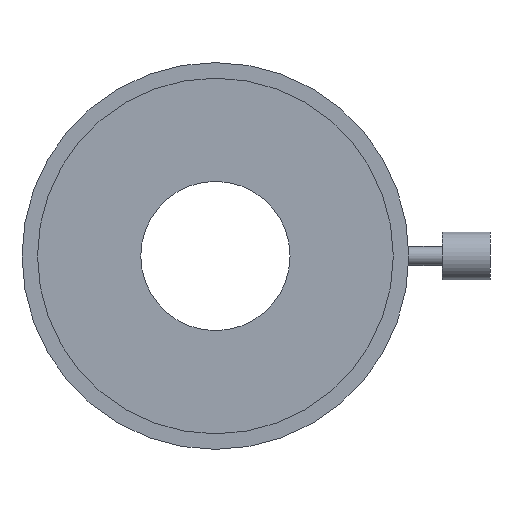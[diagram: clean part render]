
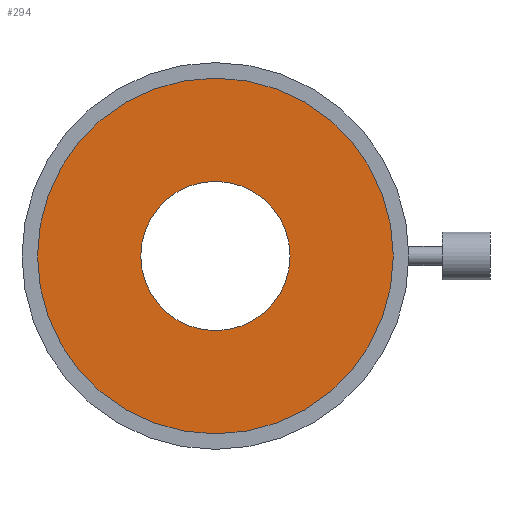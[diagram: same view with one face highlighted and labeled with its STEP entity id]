
A CAD part, front view. The second image highlights one B-rep face of the part: STEP entity #294.
In plain terms, the highlighted planar face has unit normal (0, -1, 0).
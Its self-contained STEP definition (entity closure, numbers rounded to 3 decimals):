
#45 = DIRECTION ( 'NONE',  ( 1., 0., 0. ) ) ;
#57 = CARTESIAN_POINT ( 'NONE',  ( 14.9, 5.6, 0. ) ) ;
#136 = DIRECTION ( 'NONE',  ( 0., -1., 0. ) ) ;
#161 = VERTEX_POINT ( 'NONE', #1045 ) ;
#199 = DIRECTION ( 'NONE',  ( 0., -1., 0. ) ) ;
#213 = CARTESIAN_POINT ( 'NONE',  ( 0., 5.6, 0. ) ) ;
#226 = DIRECTION ( 'NONE',  ( 1., 0., 0. ) ) ;
#235 = AXIS2_PLACEMENT_3D ( 'NONE', #938, #677, #429 ) ;
#244 = ORIENTED_EDGE ( 'NONE', *, *, #853, .T. ) ;
#287 = PLANE ( 'NONE',  #412 ) ;
#289 = EDGE_CURVE ( 'NONE', #538, #886, #316, .T. ) ;
#294 = ADVANCED_FACE ( 'NONE', ( #337, #338 ), #287, .T. ) ;
#316 = CIRCLE ( 'NONE', #428, 6.25 ) ;
#337 = FACE_OUTER_BOUND ( 'NONE', #926, .T. ) ;
#338 = FACE_BOUND ( 'NONE', #536, .T. ) ;
#366 = AXIS2_PLACEMENT_3D ( 'NONE', #837, #426, #680 ) ;
#377 = DIRECTION ( 'NONE',  ( 1., 0., 0. ) ) ;
#403 = CARTESIAN_POINT ( 'NONE',  ( 0., 5.6, 0. ) ) ;
#412 = AXIS2_PLACEMENT_3D ( 'NONE', #887, #199, #377 ) ;
#426 = DIRECTION ( 'NONE',  ( 0., -1., 0. ) ) ;
#428 = AXIS2_PLACEMENT_3D ( 'NONE', #213, #1060, #45 ) ;
#429 = DIRECTION ( 'NONE',  ( 1., 0., 0. ) ) ;
#473 = CIRCLE ( 'NONE', #1099, 6.25 ) ;
#478 = ORIENTED_EDGE ( 'NONE', *, *, #739, .F. ) ;
#536 = EDGE_LOOP ( 'NONE', ( #478, #866 ) ) ;
#538 = VERTEX_POINT ( 'NONE', #626 ) ;
#547 = CIRCLE ( 'NONE', #235, 14.9 ) ;
#626 = CARTESIAN_POINT ( 'NONE',  ( -6.25, 5.6, 0. ) ) ;
#669 = CARTESIAN_POINT ( 'NONE',  ( 6.25, 5.6, 0. ) ) ;
#677 = DIRECTION ( 'NONE',  ( 0., -1., 0. ) ) ;
#680 = DIRECTION ( 'NONE',  ( 1., 0., 0. ) ) ;
#720 = CIRCLE ( 'NONE', #366, 14.9 ) ;
#739 = EDGE_CURVE ( 'NONE', #886, #538, #473, .T. ) ;
#837 = CARTESIAN_POINT ( 'NONE',  ( 0., 5.6, 0. ) ) ;
#853 = EDGE_CURVE ( 'NONE', #161, #855, #720, .T. ) ;
#855 = VERTEX_POINT ( 'NONE', #57 ) ;
#866 = ORIENTED_EDGE ( 'NONE', *, *, #289, .F. ) ;
#886 = VERTEX_POINT ( 'NONE', #669 ) ;
#887 = CARTESIAN_POINT ( 'NONE',  ( 6.25, 5.6, 0. ) ) ;
#906 = EDGE_CURVE ( 'NONE', #855, #161, #547, .T. ) ;
#926 = EDGE_LOOP ( 'NONE', ( #999, #244 ) ) ;
#938 = CARTESIAN_POINT ( 'NONE',  ( 0., 5.6, 0. ) ) ;
#999 = ORIENTED_EDGE ( 'NONE', *, *, #906, .T. ) ;
#1045 = CARTESIAN_POINT ( 'NONE',  ( -14.9, 5.6, 0. ) ) ;
#1060 = DIRECTION ( 'NONE',  ( 0., -1., 0. ) ) ;
#1099 = AXIS2_PLACEMENT_3D ( 'NONE', #403, #136, #226 ) ;
